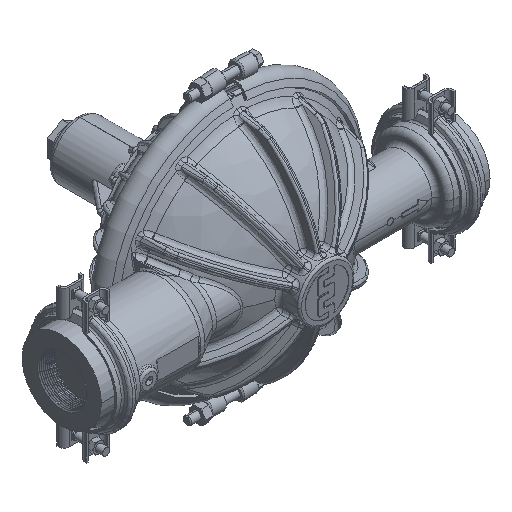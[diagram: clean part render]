
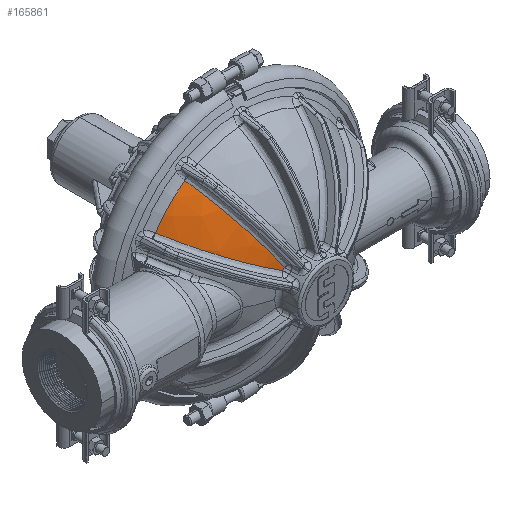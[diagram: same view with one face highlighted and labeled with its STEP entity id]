
A CAD part, isometric view. The second image highlights one B-rep face of the part: STEP entity #165861.
In plain terms, the highlighted spherical face has radius 141.986 mm.
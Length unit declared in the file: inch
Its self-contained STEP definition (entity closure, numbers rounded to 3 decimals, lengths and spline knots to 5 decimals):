
#2896 = CARTESIAN_POINT ( 'NONE',  ( -3.72455, -4.07149, 2.37013 ) ) ;
#4572 = CARTESIAN_POINT ( 'NONE',  ( -2.69901, -3.70672, 3.81776 ) ) ;
#7215 = AXIS2_PLACEMENT_3D ( 'NONE', #43328, #101283, #174493 ) ;
#8374 = EDGE_CURVE ( 'NONE', #16707, #141764, #132176, .T. ) ;
#11100 = CARTESIAN_POINT ( 'NONE',  ( -1.88179, -5.28591, 2.47775 ) ) ;
#16551 =( BOUNDED_CURVE ( )  B_SPLINE_CURVE ( 3, ( #61564, #119508, #76758, #134675, #4572, #107123, #164190, #109934, #95686, #126063, #37748, #185001, #113658, #170721, #11100, #138449, #52012, #24457, #167931, #40534, #84235, #52953, #183125, #127903, #97551 ),
 .UNSPECIFIED., .F., .F. ) 
 B_SPLINE_CURVE_WITH_KNOTS ( ( 4, 1, 1, 1, 1, 1, 1, 1, 1, 1, 1, 1, 1, 1, 1, 1, 1, 1, 1, 1, 1, 1, 4 ),
 ( 0., 0.01567, 0.06443, 0.11308, 0.16175, 0.21052, 0.25935, 0.30813, 0.35689, 0.40568, 0.45449, 0.50331, 0.55214, 0.60097, 0.64981, 0.69867, 0.74755, 0.79665, 0.84495, 0.89118, 0.93435, 0.97363, 1. ),
 .UNSPECIFIED. ) 
 CURVE ( )  GEOMETRIC_REPRESENTATION_ITEM ( )  RATIONAL_B_SPLINE_CURVE ( ( 1.145, 1.145, 1.145, 1.145, 1.145, 1.145, 1.145, 1.145, 1.145, 1.145, 1.145, 1.145, 1.145, 1.145, 1.145, 1.145, 1.145, 1.145, 1.145, 1.145, 1.145, 1.145, 1.145, 1.145, 1.145 ) ) 
 REPRESENTATION_ITEM ( '' )  );
#16707 = VERTEX_POINT ( 'NONE', #138827 ) ;
#18092 = CARTESIAN_POINT ( 'NONE',  ( -2.89139, -5.02372, 1.92036 ) ) ;
#19778 = CARTESIAN_POINT ( 'NONE',  ( 0., -6.034, 0. ) ) ;
#19972 = CARTESIAN_POINT ( 'NONE',  ( -3.46992, -4.41396, 2.23198 ) ) ;
#24457 = CARTESIAN_POINT ( 'NONE',  ( -1.58083, -5.62464, 1.97972 ) ) ;
#28594 = CARTESIAN_POINT ( 'NONE',  ( -1.10481, -6.034, 0.96555 ) ) ;
#30056 = EDGE_LOOP ( 'NONE', ( #73422, #64456, #76774, #138134 ) ) ;
#30491 = CARTESIAN_POINT ( 'NONE',  ( -1.13885, -6.02378, 0.98369 ) ) ;
#31408 = CARTESIAN_POINT ( 'NONE',  ( -1.52732, -5.88513, 1.19081 ) ) ;
#37748 = CARTESIAN_POINT ( 'NONE',  ( -2.24664, -4.73081, 3.07941 ) ) ;
#40534 = CARTESIAN_POINT ( 'NONE',  ( -1.37212, -5.80835, 1.63377 ) ) ;
#43328 = CARTESIAN_POINT ( 'NONE',  ( 0., -0.64, 0. ) ) ;
#43774 = CARTESIAN_POINT ( 'NONE',  ( -2.23298, -5.52069, 1.56766 ) ) ;
#46589 = CARTESIAN_POINT ( 'NONE',  ( -4.1841, -3.25915, 2.62325 ) ) ;
#52012 = CARTESIAN_POINT ( 'NONE',  ( -1.68355, -5.51942, 2.14983 ) ) ;
#52953 = CARTESIAN_POINT ( 'NONE',  ( -1.17436, -5.94813, 1.30565 ) ) ;
#56210 = VERTEX_POINT ( 'NONE', #104775 ) ;
#61484 = VERTEX_POINT ( 'NONE', #156452 ) ;
#61564 = CARTESIAN_POINT ( 'NONE',  ( -2.83864, -3.25915, 4.04107 ) ) ;
#61769 = CARTESIAN_POINT ( 'NONE',  ( -4.17422, -3.28047, 2.61772 ) ) ;
#63662 = CARTESIAN_POINT ( 'NONE',  ( -3.6003, -4.24565, 2.30261 ) ) ;
#64184 = EDGE_CURVE ( 'NONE', #16707, #56210, #154103, .T. ) ;
#64456 = ORIENTED_EDGE ( 'NONE', *, *, #77616, .F. ) ;
#73422 = ORIENTED_EDGE ( 'NONE', *, *, #8374, .T. ) ;
#74166 = CARTESIAN_POINT ( 'NONE',  ( -1.36337, -5.94883, 1.10338 ) ) ;
#76036 = CARTESIAN_POINT ( 'NONE',  ( -4.13327, -3.36746, 2.59482 ) ) ;
#76758 = CARTESIAN_POINT ( 'NONE',  ( -2.80767, -3.36717, 3.99194 ) ) ;
#76774 = ORIENTED_EDGE ( 'NONE', *, *, #130281, .T. ) ;
#77616 = EDGE_CURVE ( 'NONE', #61484, #141764, #16551, .T. ) ;
#78844 = CARTESIAN_POINT ( 'NONE',  ( -3.95343, -3.70734, 2.49531 ) ) ;
#84235 = CARTESIAN_POINT ( 'NONE',  ( -1.27054, -5.88413, 1.46526 ) ) ;
#85067 = CARTESIAN_POINT ( 'NONE',  ( -1.02205, -6.034, 1.05276 ) ) ;
#87473 = CARTESIAN_POINT ( 'NONE',  ( -2.57113, -5.28721, 1.74862 ) ) ;
#89311 = CARTESIAN_POINT ( 'NONE',  ( -2.05767, -5.62582, 1.47395 ) ) ;
#95686 = CARTESIAN_POINT ( 'NONE',  ( -2.41101, -4.41294, 3.34915 ) ) ;
#97551 = CARTESIAN_POINT ( 'NONE',  ( -1.02205, -6.034, 1.05276 ) ) ;
#101283 = DIRECTION ( 'NONE',  ( 0., 0., -1. ) ) ;
#104775 = CARTESIAN_POINT ( 'NONE',  ( -4.1841, -3.25915, 2.62325 ) ) ;
#105272 = DIRECTION ( 'NONE',  ( 0., 1., 0. ) ) ;
#107123 = CARTESIAN_POINT ( 'NONE',  ( -2.63243, -3.89119, 3.71011 ) ) ;
#108268 = CARTESIAN_POINT ( 'NONE',  ( -4.05779, -3.51785, 2.55287 ) ) ;
#109934 = CARTESIAN_POINT ( 'NONE',  ( -2.48829, -4.24471, 3.47553 ) ) ;
#113658 = CARTESIAN_POINT ( 'NONE',  ( -2.06987, -5.02246, 2.78829 ) ) ;
#115535 = SPHERICAL_SURFACE ( 'NONE', #7215, 5.59 ) ;
#115966 = CARTESIAN_POINT ( 'NONE',  ( -1.70091, -5.80948, 1.28343 ) ) ;
#117016 = AXIS2_PLACEMENT_3D ( 'NONE', #19778, #105272, #133751 ) ;
#119508 = CARTESIAN_POINT ( 'NONE',  ( -2.83263, -3.28035, 4.03156 ) ) ;
#126063 = CARTESIAN_POINT ( 'NONE',  ( -2.33043, -4.57504, 3.21705 ) ) ;
#127903 = CARTESIAN_POINT ( 'NONE',  ( -1.04218, -6.02366, 1.08619 ) ) ;
#130281 = EDGE_CURVE ( 'NONE', #61484, #56210, #158625, .T. ) ;
#132176 = CIRCLE ( 'NONE', #117016, 1.46728 ) ;
#133751 = DIRECTION ( 'NONE',  ( -0.753, 0., 0.658 ) ) ;
#134675 = CARTESIAN_POINT ( 'NONE',  ( -2.7619, -3.51735, 3.91888 ) ) ;
#134880 = CARTESIAN_POINT ( 'NONE',  ( -3.84233, -3.89193, 2.4344 ) ) ;
#138134 = ORIENTED_EDGE ( 'NONE', *, *, #64184, .F. ) ;
#138449 = CARTESIAN_POINT ( 'NONE',  ( -1.78387, -5.4065, 2.31584 ) ) ;
#138827 = CARTESIAN_POINT ( 'NONE',  ( -1.10481, -6.034, 0.96555 ) ) ;
#141764 = VERTEX_POINT ( 'NONE', #85067 ) ;
#145445 = CARTESIAN_POINT ( 'NONE',  ( -2.73363, -5.15911, 1.83571 ) ) ;
#146372 = CARTESIAN_POINT ( 'NONE',  ( -1.22365, -5.99721, 1.02889 ) ) ;
#154103 =( BOUNDED_CURVE ( )  B_SPLINE_CURVE ( 3, ( #28594, #30491, #146372, #74166, #31408, #115966, #173977, #89311, #43774, #159727, #87473, #145445, #18092, #176786, #180524, #164378, #19972, #63662, #2896, #134880, #78844, #108268, #76036, #61769, #46589 ),
 .UNSPECIFIED., .F., .F. ) 
 B_SPLINE_CURVE_WITH_KNOTS ( ( 4, 1, 1, 1, 1, 1, 1, 1, 1, 1, 1, 1, 1, 1, 1, 1, 1, 1, 1, 1, 1, 1, 4 ),
 ( 0., 0.02607, 0.06512, 0.10814, 0.15435, 0.20279, 0.25188, 0.30075, 0.34964, 0.39852, 0.44739, 0.49625, 0.5451, 0.59395, 0.64277, 0.69157, 0.74039, 0.78925, 0.83806, 0.88676, 0.93545, 0.98424, 1. ),
 .UNSPECIFIED. ) 
 CURVE ( )  GEOMETRIC_REPRESENTATION_ITEM ( )  RATIONAL_B_SPLINE_CURVE ( ( 1.145, 1.145, 1.145, 1.145, 1.145, 1.145, 1.145, 1.145, 1.145, 1.145, 1.145, 1.145, 1.145, 1.145, 1.145, 1.145, 1.145, 1.145, 1.145, 1.145, 1.145, 1.145, 1.145, 1.145, 1.145 ) ) 
 REPRESENTATION_ITEM ( '' )  );
#156452 = CARTESIAN_POINT ( 'NONE',  ( -2.83864, -3.25915, 4.04107 ) ) ;
#157795 = CARTESIAN_POINT ( 'NONE',  ( 0., -3.25915, 0. ) ) ;
#158625 = CIRCLE ( 'NONE', #164741, 4.93843 ) ;
#159727 = CARTESIAN_POINT ( 'NONE',  ( -2.40414, -5.40781, 1.65922 ) ) ;
#164190 = CARTESIAN_POINT ( 'NONE',  ( -2.56215, -4.07064, 3.59596 ) ) ;
#164378 = CARTESIAN_POINT ( 'NONE',  ( -3.33365, -4.57613, 2.15835 ) ) ;
#164741 = AXIS2_PLACEMENT_3D ( 'NONE', #157795, #187274, #173945 ) ;
#165861 = ADVANCED_FACE ( 'NONE', ( #173535 ), #115535, .T. ) ;
#167931 = CARTESIAN_POINT ( 'NONE',  ( -1.47645, -5.72139, 1.80675 ) ) ;
#170721 = CARTESIAN_POINT ( 'NONE',  ( -1.97717, -5.15783, 2.63532 ) ) ;
#173535 = FACE_OUTER_BOUND ( 'NONE', #30056, .T. ) ;
#173945 = DIRECTION ( 'NONE',  ( -0.575, 0., 0.818 ) ) ;
#173977 = CARTESIAN_POINT ( 'NONE',  ( -1.87929, -5.72256, 1.37866 ) ) ;
#174493 = DIRECTION ( 'NONE',  ( 1., 0., 0. ) ) ;
#176786 = CARTESIAN_POINT ( 'NONE',  ( -3.04416, -4.88125, 2.00243 ) ) ;
#180524 = CARTESIAN_POINT ( 'NONE',  ( -3.19167, -4.73197, 2.08181 ) ) ;
#183125 = CARTESIAN_POINT ( 'NONE',  ( -1.09215, -5.99687, 1.16917 ) ) ;
#185001 = CARTESIAN_POINT ( 'NONE',  ( -2.15974, -4.88004, 2.9364 ) ) ;
#187274 = DIRECTION ( 'NONE',  ( 0., -1., 0. ) ) ;
